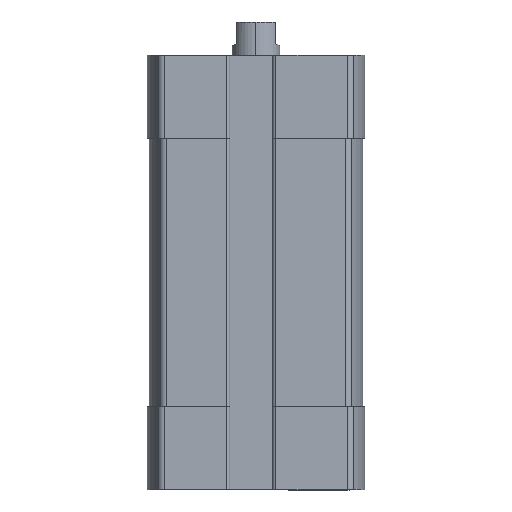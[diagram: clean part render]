
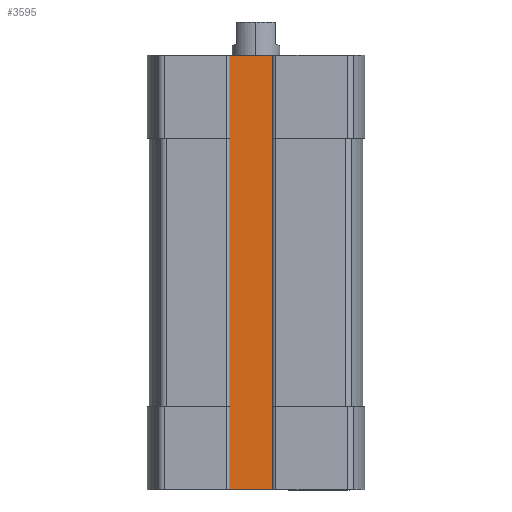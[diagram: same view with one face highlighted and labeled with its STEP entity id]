
A CAD part, left-side view. The second image highlights one B-rep face of the part: STEP entity #3595.
In plain terms, the highlighted planar face has unit normal (-1, 0, 0).
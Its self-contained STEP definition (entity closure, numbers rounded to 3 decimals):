
#783 = VECTOR ( 'NONE', #4583, 1000. ) ;
#829 = ORIENTED_EDGE ( 'NONE', *, *, #1365, .F. ) ;
#1120 = DIRECTION ( 'NONE',  ( 0., 0., -1. ) ) ;
#1307 = CARTESIAN_POINT ( 'NONE',  ( -8.3, -2.4, 0. ) ) ;
#1365 = EDGE_CURVE ( 'NONE', #6104, #3079, #5577, .T. ) ;
#1553 = VECTOR ( 'NONE', #9067, 1000. ) ;
#1973 = ORIENTED_EDGE ( 'NONE', *, *, #9328, .T. ) ;
#2533 = LINE ( 'NONE', #10174, #9675 ) ;
#2827 = CARTESIAN_POINT ( 'NONE',  ( -8.3, 3.6, -55. ) ) ;
#2870 = EDGE_CURVE ( 'NONE', #10003, #9436, #3961, .T. ) ;
#3079 = VERTEX_POINT ( 'NONE', #1307 ) ;
#3239 = ORIENTED_EDGE ( 'NONE', *, *, #8817, .T. ) ;
#3513 = VECTOR ( 'NONE', #1120, 1000. ) ;
#3526 = CARTESIAN_POINT ( 'NONE',  ( -8.3, -2.5, 0. ) ) ;
#3595 = ADVANCED_FACE ( 'NONE', ( #7027 ), #4213, .T. ) ;
#3954 = ORIENTED_EDGE ( 'NONE', *, *, #2870, .T. ) ;
#3961 = LINE ( 'NONE', #2827, #1553 ) ;
#4213 = PLANE ( 'NONE',  #11174 ) ;
#4583 = DIRECTION ( 'NONE',  ( 0., -1., 0. ) ) ;
#4666 = CARTESIAN_POINT ( 'NONE',  ( -8.3, 3.6, 0. ) ) ;
#5134 = DIRECTION ( 'NONE',  ( 0., 0., 1. ) ) ;
#5577 = LINE ( 'NONE', #3526, #783 ) ;
#5810 = EDGE_LOOP ( 'NONE', ( #3954, #3239, #829, #1973 ) ) ;
#6104 = VERTEX_POINT ( 'NONE', #4666 ) ;
#6513 = CARTESIAN_POINT ( 'NONE',  ( -8.3, 3.6, -55. ) ) ;
#6715 = CARTESIAN_POINT ( 'NONE',  ( -8.3, 3.6, -55. ) ) ;
#7027 = FACE_OUTER_BOUND ( 'NONE', #5810, .T. ) ;
#7784 = CARTESIAN_POINT ( 'NONE',  ( -8.3, 3.6, -55. ) ) ;
#8817 = EDGE_CURVE ( 'NONE', #9436, #3079, #2533, .T. ) ;
#9067 = DIRECTION ( 'NONE',  ( 0., -1., 0. ) ) ;
#9328 = EDGE_CURVE ( 'NONE', #6104, #10003, #10330, .T. ) ;
#9436 = VERTEX_POINT ( 'NONE', #10200 ) ;
#9675 = VECTOR ( 'NONE', #11069, 1000. ) ;
#10003 = VERTEX_POINT ( 'NONE', #6715 ) ;
#10174 = CARTESIAN_POINT ( 'NONE',  ( -8.3, -2.4, -55. ) ) ;
#10200 = CARTESIAN_POINT ( 'NONE',  ( -8.3, -2.4, -55. ) ) ;
#10330 = LINE ( 'NONE', #6513, #3513 ) ;
#10465 = DIRECTION ( 'NONE',  ( -1., 0., 0. ) ) ;
#11069 = DIRECTION ( 'NONE',  ( 0., 0., 1. ) ) ;
#11174 = AXIS2_PLACEMENT_3D ( 'NONE', #7784, #10465, #5134 ) ;
